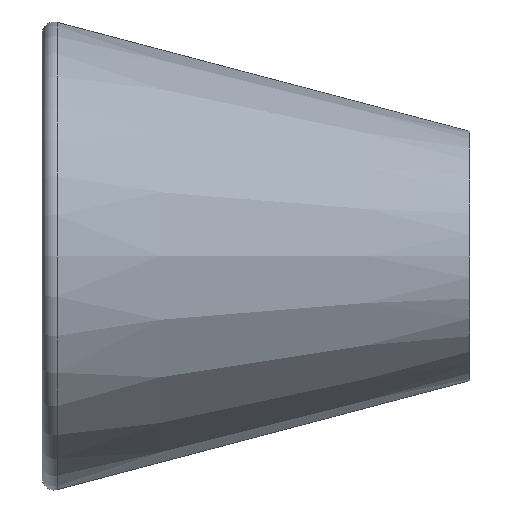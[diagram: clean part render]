
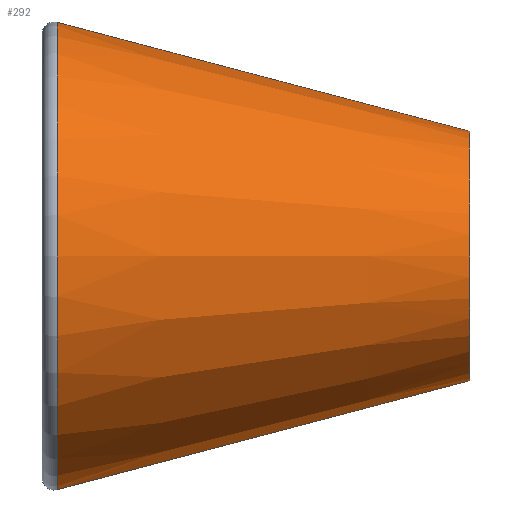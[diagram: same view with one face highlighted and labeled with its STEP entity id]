
A CAD part, left-side view. The second image highlights one B-rep face of the part: STEP entity #292.
In plain terms, the highlighted conical face has half-angle 14.783 degrees and reference radius 5.25 mm.
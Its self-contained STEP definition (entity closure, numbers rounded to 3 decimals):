
#12 = EDGE_CURVE ( 'NONE', #120, #219, #72, .T. ) ;
#14 = VECTOR ( 'NONE', #205, 1000. ) ;
#19 = CARTESIAN_POINT ( 'NONE',  ( 0., 0., 5.25 ) ) ;
#22 = AXIS2_PLACEMENT_3D ( 'NONE', #247, #226, #302 ) ;
#34 = DIRECTION ( 'NONE',  ( 0., 0., -1. ) ) ;
#45 = CARTESIAN_POINT ( 'NONE',  ( 0., 0., 0. ) ) ;
#49 = DIRECTION ( 'NONE',  ( 0., 0., -1. ) ) ;
#54 = DIRECTION ( 'NONE',  ( 0., -1., 0. ) ) ;
#57 = CARTESIAN_POINT ( 'NONE',  ( 0., 17.372, 9.834 ) ) ;
#70 = VERTEX_POINT ( 'NONE', #57 ) ;
#72 = CIRCLE ( 'NONE', #270, 5.25 ) ;
#73 = ORIENTED_EDGE ( 'NONE', *, *, #12, .F. ) ;
#83 = FACE_OUTER_BOUND ( 'NONE', #193, .T. ) ;
#93 = VERTEX_POINT ( 'NONE', #130 ) ;
#104 = VECTOR ( 'NONE', #180, 1000. ) ;
#120 = VERTEX_POINT ( 'NONE', #255 ) ;
#124 = AXIS2_PLACEMENT_3D ( 'NONE', #127, #54, #49 ) ;
#127 = CARTESIAN_POINT ( 'NONE',  ( 0., 17.372, 0. ) ) ;
#130 = CARTESIAN_POINT ( 'NONE',  ( 0., 17.372, -9.834 ) ) ;
#157 = DIRECTION ( 'NONE',  ( 0., -1., 0. ) ) ;
#179 = CONICAL_SURFACE ( 'NONE', #22, 5.25, 0.258 ) ;
#180 = DIRECTION ( 'NONE',  ( 0., 0.967, 0.255 ) ) ;
#193 = EDGE_LOOP ( 'NONE', ( #195, #73, #243, #325 ) ) ;
#195 = ORIENTED_EDGE ( 'NONE', *, *, #210, .F. ) ;
#197 = CIRCLE ( 'NONE', #124, 9.834 ) ;
#205 = DIRECTION ( 'NONE',  ( 0., 0.967, -0.255 ) ) ;
#208 = LINE ( 'NONE', #19, #104 ) ;
#210 = EDGE_CURVE ( 'NONE', #219, #93, #258, .T. ) ;
#219 = VERTEX_POINT ( 'NONE', #280 ) ;
#225 = EDGE_CURVE ( 'NONE', #120, #70, #208, .T. ) ;
#226 = DIRECTION ( 'NONE',  ( 0., 1., 0. ) ) ;
#232 = CARTESIAN_POINT ( 'NONE',  ( 0., 0., -5.25 ) ) ;
#243 = ORIENTED_EDGE ( 'NONE', *, *, #225, .T. ) ;
#247 = CARTESIAN_POINT ( 'NONE',  ( 0., 0., 0. ) ) ;
#249 = EDGE_CURVE ( 'NONE', #70, #93, #197, .T. ) ;
#255 = CARTESIAN_POINT ( 'NONE',  ( 0., 0., 5.25 ) ) ;
#258 = LINE ( 'NONE', #232, #14 ) ;
#270 = AXIS2_PLACEMENT_3D ( 'NONE', #45, #157, #34 ) ;
#280 = CARTESIAN_POINT ( 'NONE',  ( 0., 0., -5.25 ) ) ;
#292 = ADVANCED_FACE ( 'NONE', ( #83 ), #179, .T. ) ;
#302 = DIRECTION ( 'NONE',  ( 0., 0., 1. ) ) ;
#325 = ORIENTED_EDGE ( 'NONE', *, *, #249, .T. ) ;
